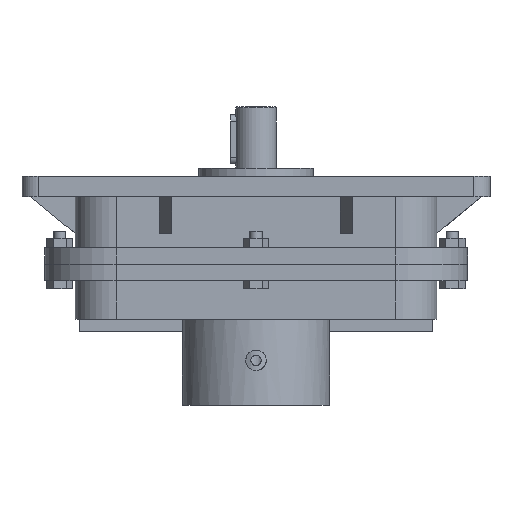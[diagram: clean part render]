
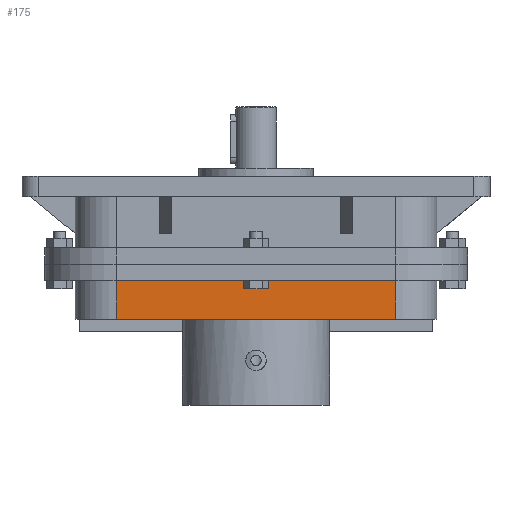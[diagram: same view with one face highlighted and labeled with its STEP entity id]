
A CAD part, left-side view. The second image highlights one B-rep face of the part: STEP entity #175.
In plain terms, the highlighted planar face has unit normal (-1, 0, 0).
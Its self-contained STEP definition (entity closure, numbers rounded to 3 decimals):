
#175 = ADVANCED_FACE('',(#176),#190,.T.);
#176 = FACE_BOUND('',#177,.T.);
#177 = EDGE_LOOP('',(#178,#213,#241,#267));
#178 = ORIENTED_EDGE('',*,*,#179,.F.);
#179 = EDGE_CURVE('',#180,#182,#184,.T.);
#180 = VERTEX_POINT('',#181);
#181 = CARTESIAN_POINT('',(-20.,-34.2,0.));
#182 = VERTEX_POINT('',#183);
#183 = CARTESIAN_POINT('',(-20.,34.2,0.));
#184 = SURFACE_CURVE('',#185,(#189,#201),.PCURVE_S1.);
#185 = LINE('',#186,#187);
#186 = CARTESIAN_POINT('',(-20.,0.,0.));
#187 = VECTOR('',#188,1.);
#188 = DIRECTION('',(0.,1.,0.));
#189 = PCURVE('',#190,#195);
#190 = PLANE('',#191);
#191 = AXIS2_PLACEMENT_3D('',#192,#193,#194);
#192 = CARTESIAN_POINT('',(-20.,-34.2,0.));
#193 = DIRECTION('',(-1.,0.,0.));
#194 = DIRECTION('',(0.,1.,0.));
#195 = DEFINITIONAL_REPRESENTATION('',(#196),#200);
#196 = LINE('',#197,#198);
#197 = CARTESIAN_POINT('',(34.2,0.));
#198 = VECTOR('',#199,1.);
#199 = DIRECTION('',(1.,0.));
#200 = ( GEOMETRIC_REPRESENTATION_CONTEXT(2) 
PARAMETRIC_REPRESENTATION_CONTEXT() REPRESENTATION_CONTEXT('2D SPACE',''
  ) );
#201 = PCURVE('',#202,#207);
#202 = PLANE('',#203);
#203 = AXIS2_PLACEMENT_3D('',#204,#205,#206);
#204 = CARTESIAN_POINT('',(58.2,0.,0.));
#205 = DIRECTION('',(0.,0.,1.));
#206 = DIRECTION('',(1.,0.,-0.));
#207 = DEFINITIONAL_REPRESENTATION('',(#208),#212);
#208 = LINE('',#209,#210);
#209 = CARTESIAN_POINT('',(-78.2,0.));
#210 = VECTOR('',#211,1.);
#211 = DIRECTION('',(0.,1.));
#212 = ( GEOMETRIC_REPRESENTATION_CONTEXT(2) 
PARAMETRIC_REPRESENTATION_CONTEXT() REPRESENTATION_CONTEXT('2D SPACE',''
  ) );
#213 = ORIENTED_EDGE('',*,*,#214,.T.);
#214 = EDGE_CURVE('',#180,#215,#217,.T.);
#215 = VERTEX_POINT('',#216);
#216 = CARTESIAN_POINT('',(-20.,-34.2,9.5));
#217 = SURFACE_CURVE('',#218,(#222,#229),.PCURVE_S1.);
#218 = LINE('',#219,#220);
#219 = CARTESIAN_POINT('',(-20.,-34.2,0.));
#220 = VECTOR('',#221,1.);
#221 = DIRECTION('',(0.,0.,1.));
#222 = PCURVE('',#190,#223);
#223 = DEFINITIONAL_REPRESENTATION('',(#224),#228);
#224 = LINE('',#225,#226);
#225 = CARTESIAN_POINT('',(0.,0.));
#226 = VECTOR('',#227,1.);
#227 = DIRECTION('',(0.,-1.));
#228 = ( GEOMETRIC_REPRESENTATION_CONTEXT(2) 
PARAMETRIC_REPRESENTATION_CONTEXT() REPRESENTATION_CONTEXT('2D SPACE',''
  ) );
#229 = PCURVE('',#230,#235);
#230 = CYLINDRICAL_SURFACE('',#231,10.);
#231 = AXIS2_PLACEMENT_3D('',#232,#233,#234);
#232 = CARTESIAN_POINT('',(-10.,-34.2,0.));
#233 = DIRECTION('',(-0.,-0.,-1.));
#234 = DIRECTION('',(1.,0.,0.));
#235 = DEFINITIONAL_REPRESENTATION('',(#236),#240);
#236 = LINE('',#237,#238);
#237 = CARTESIAN_POINT('',(-3.142,0.));
#238 = VECTOR('',#239,1.);
#239 = DIRECTION('',(-0.,-1.));
#240 = ( GEOMETRIC_REPRESENTATION_CONTEXT(2) 
PARAMETRIC_REPRESENTATION_CONTEXT() REPRESENTATION_CONTEXT('2D SPACE',''
  ) );
#241 = ORIENTED_EDGE('',*,*,#242,.T.);
#242 = EDGE_CURVE('',#215,#243,#245,.T.);
#243 = VERTEX_POINT('',#244);
#244 = CARTESIAN_POINT('',(-20.,34.2,9.5));
#245 = SURFACE_CURVE('',#246,(#250,#256),.PCURVE_S1.);
#246 = LINE('',#247,#248);
#247 = CARTESIAN_POINT('',(-20.,-17.1,9.5));
#248 = VECTOR('',#249,1.);
#249 = DIRECTION('',(0.,1.,-0.));
#250 = PCURVE('',#190,#251);
#251 = DEFINITIONAL_REPRESENTATION('',(#252),#255);
#252 = B_SPLINE_CURVE_WITH_KNOTS('',1,(#253,#254),.UNSPECIFIED.,.F.,.F.,
  (2,2),(-17.1,51.3),.PIECEWISE_BEZIER_KNOTS.);
#253 = CARTESIAN_POINT('',(0.,-9.5));
#254 = CARTESIAN_POINT('',(68.4,-9.5));
#255 = ( GEOMETRIC_REPRESENTATION_CONTEXT(2) 
PARAMETRIC_REPRESENTATION_CONTEXT() REPRESENTATION_CONTEXT('2D SPACE',''
  ) );
#256 = PCURVE('',#257,#262);
#257 = PLANE('',#258);
#258 = AXIS2_PLACEMENT_3D('',#259,#260,#261);
#259 = CARTESIAN_POINT('',(58.2,0.,9.5));
#260 = DIRECTION('',(0.,0.,1.));
#261 = DIRECTION('',(1.,0.,-0.));
#262 = DEFINITIONAL_REPRESENTATION('',(#263),#266);
#263 = B_SPLINE_CURVE_WITH_KNOTS('',1,(#264,#265),.UNSPECIFIED.,.F.,.F.,
  (2,2),(-17.1,51.3),.PIECEWISE_BEZIER_KNOTS.);
#264 = CARTESIAN_POINT('',(-78.2,-34.2));
#265 = CARTESIAN_POINT('',(-78.2,34.2));
#266 = ( GEOMETRIC_REPRESENTATION_CONTEXT(2) 
PARAMETRIC_REPRESENTATION_CONTEXT() REPRESENTATION_CONTEXT('2D SPACE',''
  ) );
#267 = ORIENTED_EDGE('',*,*,#268,.F.);
#268 = EDGE_CURVE('',#182,#243,#269,.T.);
#269 = SURFACE_CURVE('',#270,(#274,#281),.PCURVE_S1.);
#270 = LINE('',#271,#272);
#271 = CARTESIAN_POINT('',(-20.,34.2,0.));
#272 = VECTOR('',#273,1.);
#273 = DIRECTION('',(0.,0.,1.));
#274 = PCURVE('',#190,#275);
#275 = DEFINITIONAL_REPRESENTATION('',(#276),#280);
#276 = LINE('',#277,#278);
#277 = CARTESIAN_POINT('',(68.4,0.));
#278 = VECTOR('',#279,1.);
#279 = DIRECTION('',(0.,-1.));
#280 = ( GEOMETRIC_REPRESENTATION_CONTEXT(2) 
PARAMETRIC_REPRESENTATION_CONTEXT() REPRESENTATION_CONTEXT('2D SPACE',''
  ) );
#281 = PCURVE('',#282,#287);
#282 = CYLINDRICAL_SURFACE('',#283,10.);
#283 = AXIS2_PLACEMENT_3D('',#284,#285,#286);
#284 = CARTESIAN_POINT('',(-10.,34.2,0.));
#285 = DIRECTION('',(-0.,-0.,-1.));
#286 = DIRECTION('',(1.,0.,0.));
#287 = DEFINITIONAL_REPRESENTATION('',(#288),#292);
#288 = LINE('',#289,#290);
#289 = CARTESIAN_POINT('',(-3.142,0.));
#290 = VECTOR('',#291,1.);
#291 = DIRECTION('',(-0.,-1.));
#292 = ( GEOMETRIC_REPRESENTATION_CONTEXT(2) 
PARAMETRIC_REPRESENTATION_CONTEXT() REPRESENTATION_CONTEXT('2D SPACE',''
  ) );
